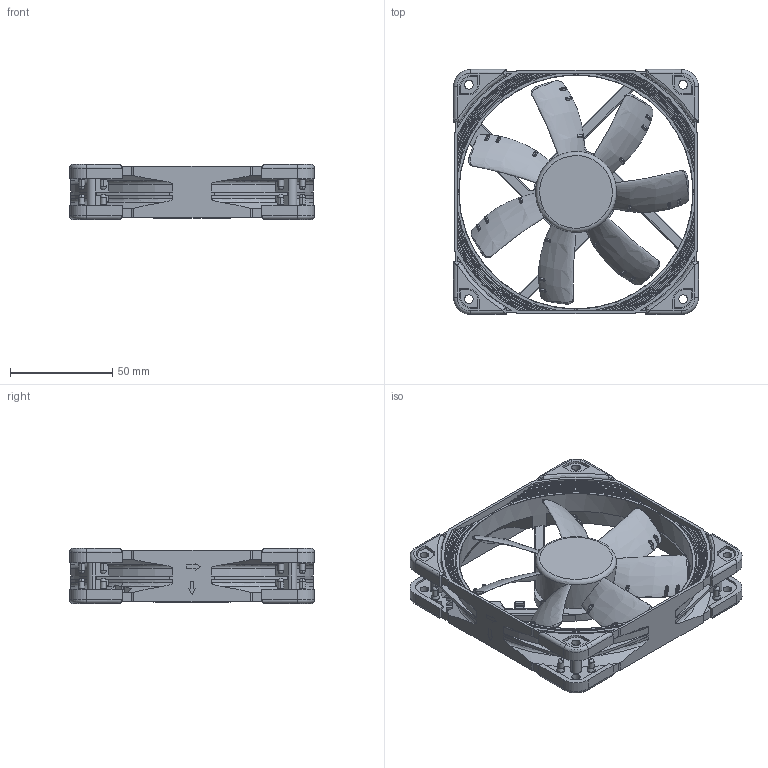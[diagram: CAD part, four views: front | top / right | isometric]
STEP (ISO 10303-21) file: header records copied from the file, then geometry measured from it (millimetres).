
FILE_DESCRIPTION(/* description */ ('140mm Desk Fan'),/* implementation_level */ '2;1');
FILE_NAME(/* name */ 'NF-S12A_Public-CAD',/* time_stamp */ '2026-04-09T17:41:57+02:00',/* author */ ('Andreas'),/* organization */ ('Rascom'),/* preprocessor_version */ 'ST-DEVELOPER v18.102',/* originating_system */ 'Solid Edge',/* authorisation */ 'Unknown');
FILE_SCHEMA (('AUTOMOTIVE_DESIGN {1 0 10303 214 3 1 1}'));
Products named in the file (5): NF-S12A_Public-CAD; NF-S12A_frame-public; NF-S12A_impeller-public; NA-AVP1; Fan-Label-D38mm-Regular
Assembly tree (11 placements, depth 2):
  NF-S12A_Public-CAD
    NF-S12A_frame-public
    NF-S12A_impeller-public
    NA-AVP1  x8
    Fan-Label-D38mm-Regular
Bounding box: 120 x 120 x 27 mm (x, y, z)
Volume: 86999 mm3; surface area: 72583.6 mm2
Topology: 11 solids, 11 shells, 1685 faces, 4549 edges, 2860 vertices
Faces by surface type: plane 568, cylinder 508, torus 290, bspline 159, cone 122, sphere 38
Full cylindrical faces by diameter (mm): 38 x1, 39.6 x1, 114.6 x1
Entity records: 169806 total; most frequent: CARTESIAN_POINT 139153, ORIENTED_EDGE 6960, DIRECTION 4863, EDGE_CURVE 3480, VERTEX_POINT 2228, AXIS2_PLACEMENT_3D 1787, B_SPLINE_CURVE_WITH_KNOTS 1520, EDGE_LOOP 1388
